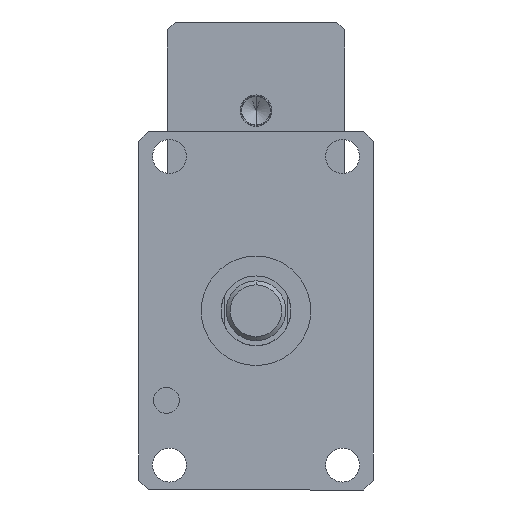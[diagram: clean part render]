
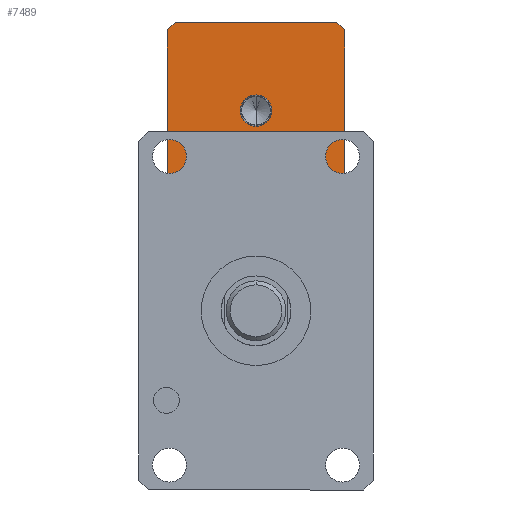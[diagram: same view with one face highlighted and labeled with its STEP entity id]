
A CAD part, front view. The second image highlights one B-rep face of the part: STEP entity #7489.
In plain terms, the highlighted planar face has unit normal (0, -1, 0).
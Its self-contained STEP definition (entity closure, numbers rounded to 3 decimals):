
#28 = PLANE ( 'NONE',  #8089 ) ;
#305 = EDGE_CURVE ( 'NONE', #5879, #2964, #5644, .T. ) ;
#403 = EDGE_LOOP ( 'NONE', ( #7172, #9358 ) ) ;
#489 = LINE ( 'NONE', #9163, #3087 ) ;
#540 = ORIENTED_EDGE ( 'NONE', *, *, #5949, .T. ) ;
#989 = VECTOR ( 'NONE', #3932, 1000. ) ;
#1111 = EDGE_CURVE ( 'NONE', #9321, #7618, #9078, .T. ) ;
#1113 = CARTESIAN_POINT ( 'NONE',  ( -44.5, 110., 60. ) ) ;
#1187 = VERTEX_POINT ( 'NONE', #11465 ) ;
#1206 = EDGE_CURVE ( 'NONE', #12176, #1187, #3596, .T. ) ;
#1349 = VECTOR ( 'NONE', #5074, 1000. ) ;
#1740 = CIRCLE ( 'NONE', #3165, 7.903 ) ;
#1755 = CARTESIAN_POINT ( 'NONE',  ( 0., 110., 92.597 ) ) ;
#1990 = DIRECTION ( 'NONE',  ( 0., 1., 0. ) ) ;
#2005 = ORIENTED_EDGE ( 'NONE', *, *, #3173, .T. ) ;
#2109 = FACE_BOUND ( 'NONE', #403, .T. ) ;
#2233 = ORIENTED_EDGE ( 'NONE', *, *, #1111, .F. ) ;
#2420 = EDGE_CURVE ( 'NONE', #5879, #7618, #9072, .T. ) ;
#2635 = DIRECTION ( 'NONE',  ( 0.707, 0., -0.707 ) ) ;
#2647 = DIRECTION ( 'NONE',  ( 1., 0., 0. ) ) ;
#2964 = VERTEX_POINT ( 'NONE', #9744 ) ;
#3074 = DIRECTION ( 'NONE',  ( 0., -1., 0. ) ) ;
#3087 = VECTOR ( 'NONE', #11093, 1000. ) ;
#3161 = CARTESIAN_POINT ( 'NONE',  ( 40.5, 110., 56. ) ) ;
#3165 = AXIS2_PLACEMENT_3D ( 'NONE', #8920, #3074, #9891 ) ;
#3173 = EDGE_CURVE ( 'NONE', #5408, #11308, #3401, .T. ) ;
#3397 = CARTESIAN_POINT ( 'NONE',  ( 40.5, 110., 145. ) ) ;
#3401 = LINE ( 'NONE', #8488, #6045 ) ;
#3596 = CIRCLE ( 'NONE', #7063, 7.903 ) ;
#3750 = CARTESIAN_POINT ( 'NONE',  ( 0., 110., 100.5 ) ) ;
#3932 = DIRECTION ( 'NONE',  ( -0.707, 0., 0.707 ) ) ;
#4339 = CARTESIAN_POINT ( 'NONE',  ( 44.5, 110., 60. ) ) ;
#4393 = EDGE_CURVE ( 'NONE', #1187, #12176, #1740, .T. ) ;
#4497 = EDGE_CURVE ( 'NONE', #11308, #11931, #489, .T. ) ;
#4651 = CARTESIAN_POINT ( 'NONE',  ( -40.5, 110., 145. ) ) ;
#4733 = CARTESIAN_POINT ( 'NONE',  ( 44.5, 110., 145. ) ) ;
#4742 = DIRECTION ( 'NONE',  ( 0., 0., -1. ) ) ;
#4844 = ORIENTED_EDGE ( 'NONE', *, *, #6458, .T. ) ;
#4923 = CARTESIAN_POINT ( 'NONE',  ( 40.5, 110., 145. ) ) ;
#5015 = VECTOR ( 'NONE', #9263, 1000. ) ;
#5074 = DIRECTION ( 'NONE',  ( 0., 0., -1. ) ) ;
#5408 = VERTEX_POINT ( 'NONE', #1113 ) ;
#5644 = LINE ( 'NONE', #4733, #5015 ) ;
#5879 = VERTEX_POINT ( 'NONE', #8475 ) ;
#5928 = CARTESIAN_POINT ( 'NONE',  ( -44.5, 110., 141. ) ) ;
#5949 = EDGE_CURVE ( 'NONE', #9321, #11788, #9319, .T. ) ;
#6045 = VECTOR ( 'NONE', #2635, 1000. ) ;
#6075 = CARTESIAN_POINT ( 'NONE',  ( -44.5, 110., 145. ) ) ;
#6458 = EDGE_CURVE ( 'NONE', #11931, #2964, #12150, .T. ) ;
#6558 = LINE ( 'NONE', #6075, #1349 ) ;
#6746 = VECTOR ( 'NONE', #8550, 1000. ) ;
#7063 = AXIS2_PLACEMENT_3D ( 'NONE', #3750, #10535, #4742 ) ;
#7172 = ORIENTED_EDGE ( 'NONE', *, *, #1206, .F. ) ;
#7382 = DIRECTION ( 'NONE',  ( 0.707, 0., 0.707 ) ) ;
#7489 = ADVANCED_FACE ( 'NONE', ( #2109, #12446 ), #28, .F. ) ;
#7527 = CARTESIAN_POINT ( 'NONE',  ( 44.5, 110., 145. ) ) ;
#7618 = VERTEX_POINT ( 'NONE', #3397 ) ;
#8054 = CARTESIAN_POINT ( 'NONE',  ( -40.5, 110., 145. ) ) ;
#8089 = AXIS2_PLACEMENT_3D ( 'NONE', #9760, #1990, #8823 ) ;
#8160 = ORIENTED_EDGE ( 'NONE', *, *, #305, .F. ) ;
#8475 = CARTESIAN_POINT ( 'NONE',  ( 44.5, 110., 141. ) ) ;
#8488 = CARTESIAN_POINT ( 'NONE',  ( -44.5, 110., 60. ) ) ;
#8508 = EDGE_LOOP ( 'NONE', ( #12385, #2005, #9688, #4844, #8160, #11898, #2233, #540 ) ) ;
#8550 = DIRECTION ( 'NONE',  ( -0.707, 0., -0.707 ) ) ;
#8823 = DIRECTION ( 'NONE',  ( 0., 0., 1. ) ) ;
#8920 = CARTESIAN_POINT ( 'NONE',  ( 0., 110., 100.5 ) ) ;
#9072 = LINE ( 'NONE', #4923, #989 ) ;
#9078 = LINE ( 'NONE', #7527, #11633 ) ;
#9163 = CARTESIAN_POINT ( 'NONE',  ( 44.5, 110., 56. ) ) ;
#9263 = DIRECTION ( 'NONE',  ( 0., 0., -1. ) ) ;
#9292 = EDGE_CURVE ( 'NONE', #11788, #5408, #6558, .T. ) ;
#9319 = LINE ( 'NONE', #4651, #6746 ) ;
#9321 = VERTEX_POINT ( 'NONE', #8054 ) ;
#9358 = ORIENTED_EDGE ( 'NONE', *, *, #4393, .F. ) ;
#9606 = VECTOR ( 'NONE', #7382, 1000. ) ;
#9688 = ORIENTED_EDGE ( 'NONE', *, *, #4497, .T. ) ;
#9744 = CARTESIAN_POINT ( 'NONE',  ( 44.5, 110., 60. ) ) ;
#9760 = CARTESIAN_POINT ( 'NONE',  ( 44.5, 110., 145. ) ) ;
#9875 = CARTESIAN_POINT ( 'NONE',  ( -40.5, 110., 56. ) ) ;
#9891 = DIRECTION ( 'NONE',  ( 0., 0., -1. ) ) ;
#10535 = DIRECTION ( 'NONE',  ( 0., -1., 0. ) ) ;
#11093 = DIRECTION ( 'NONE',  ( 1., 0., 0. ) ) ;
#11308 = VERTEX_POINT ( 'NONE', #9875 ) ;
#11465 = CARTESIAN_POINT ( 'NONE',  ( 0., 110., 108.403 ) ) ;
#11633 = VECTOR ( 'NONE', #2647, 1000. ) ;
#11788 = VERTEX_POINT ( 'NONE', #5928 ) ;
#11898 = ORIENTED_EDGE ( 'NONE', *, *, #2420, .T. ) ;
#11931 = VERTEX_POINT ( 'NONE', #3161 ) ;
#12150 = LINE ( 'NONE', #4339, #9606 ) ;
#12176 = VERTEX_POINT ( 'NONE', #1755 ) ;
#12385 = ORIENTED_EDGE ( 'NONE', *, *, #9292, .T. ) ;
#12446 = FACE_OUTER_BOUND ( 'NONE', #8508, .T. ) ;
